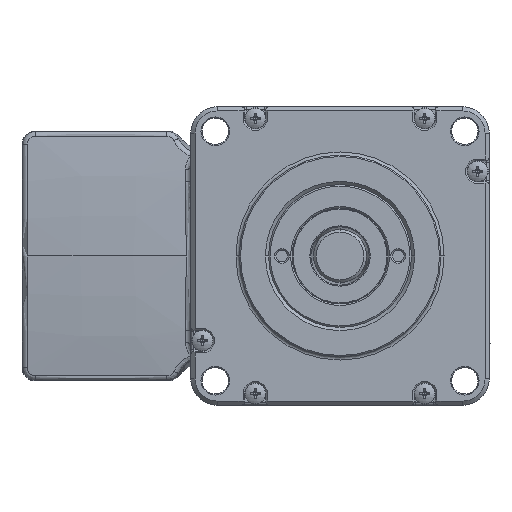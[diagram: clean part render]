
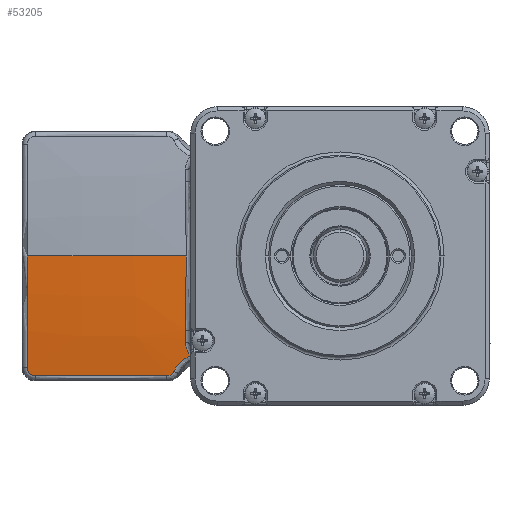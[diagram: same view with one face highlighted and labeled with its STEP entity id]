
A CAD part, left-side view. The second image highlights one B-rep face of the part: STEP entity #53205.
In plain terms, the highlighted free-form (B-spline) face has degree [3, 3] with [4, 4] control points.
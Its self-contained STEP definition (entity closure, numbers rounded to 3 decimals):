
#19495=CARTESIAN_POINT('',(-57.607,-22.648,
-45.879));
#19510=CARTESIAN_POINT('',(-32.757,-22.638,
-44.815));
#19521=CARTESIAN_POINT('',(-31.417,-21.806,
-44.708));
#19532=CARTESIAN_POINT('',(-28.259,-18.848,
-44.392));
#19564=CARTESIAN_POINT('',(-29.064,0.,
-43.501));
#19565=CARTESIAN_POINT('',(-29.064,-1.172,
-43.501));
#19566=CARTESIAN_POINT('',(-29.078,-3.517,
-43.522));
#19567=CARTESIAN_POINT('',(-29.124,-7.034,
-43.615));
#19568=CARTESIAN_POINT('',(-29.177,-10.55,
-43.77));
#19569=CARTESIAN_POINT('',(-29.198,-12.892,
-43.915));
#19570=CARTESIAN_POINT('',(-29.198,-14.063,
-43.998));
#19575=CARTESIAN_POINT('',(-29.198,-16.419,
-44.178));
#19576=CARTESIAN_POINT('',(-29.198,-16.652,
-44.197));
#19577=CARTESIAN_POINT('',(-29.164,-16.997,
-44.226));
#19578=CARTESIAN_POINT('',(-29.054,-17.448,
-44.265));
#19579=CARTESIAN_POINT('',(-28.939,-17.778,
-44.294));
#19580=CARTESIAN_POINT('',(-28.793,-18.093,
-44.323));
#19581=CARTESIAN_POINT('',(-28.58,-18.458,
-44.356));
#19582=CARTESIAN_POINT('',(-28.389,-18.705,
-44.379));
#19583=CARTESIAN_POINT('',(-28.259,-18.848,
-44.392));
#19588=CARTESIAN_POINT('',(-28.259,-18.848,
-44.392));
#19589=CARTESIAN_POINT('',(-28.606,-18.989,
-44.406));
#19590=CARTESIAN_POINT('',(-29.097,-19.246,
-44.431));
#19591=CARTESIAN_POINT('',(-29.695,-19.671,
-44.475));
#19592=CARTESIAN_POINT('',(-30.115,-20.032,
-44.513));
#19593=CARTESIAN_POINT('',(-30.503,-20.432,
-44.555));
#19594=CARTESIAN_POINT('',(-30.85,-20.86,
-44.602));
#19595=CARTESIAN_POINT('',(-31.156,-21.317,
-44.653));
#19596=CARTESIAN_POINT('',(-31.335,-21.64,
-44.689));
#19597=CARTESIAN_POINT('',(-31.417,-21.806,
-44.708));
#19602=CARTESIAN_POINT('',(-31.417,-21.806,
-44.708));
#19603=CARTESIAN_POINT('',(-31.479,-21.931,
-44.723));
#19604=CARTESIAN_POINT('',(-31.595,-22.101,
-44.742));
#19605=CARTESIAN_POINT('',(-31.797,-22.295,
-44.766));
#19606=CARTESIAN_POINT('',(-31.964,-22.416,
-44.781));
#19607=CARTESIAN_POINT('',(-32.148,-22.514,
-44.794));
#19608=CARTESIAN_POINT('',(-32.344,-22.585,
-44.804));
#19609=CARTESIAN_POINT('',(-32.547,-22.628,
-44.811));
#19610=CARTESIAN_POINT('',(-32.687,-22.638,
-44.814));
#19611=CARTESIAN_POINT('',(-32.757,-22.638,
-44.815));
#19616=CARTESIAN_POINT('',(-32.757,-22.638,
-44.815));
#19617=CARTESIAN_POINT('',(-41.051,-22.639,
-44.91));
#19618=CARTESIAN_POINT('',(-49.335,-22.642,
-45.265));
#19619=CARTESIAN_POINT('',(-57.607,-22.648,
-45.879));
#19624=CARTESIAN_POINT('',(-57.607,-22.648,
-45.879));
#19625=CARTESIAN_POINT('',(-57.707,-22.648,
-45.887));
#19626=CARTESIAN_POINT('',(-57.853,-22.633,
-45.896));
#19627=CARTESIAN_POINT('',(-58.044,-22.585,
-45.905));
#19628=CARTESIAN_POINT('',(-58.231,-22.518,
-45.911));
#19629=CARTESIAN_POINT('',(-58.447,-22.403,
-45.914));
#19630=CARTESIAN_POINT('',(-58.64,-22.244,
-45.911));
#19631=CARTESIAN_POINT('',(-58.772,-22.098,
-45.905));
#19632=CARTESIAN_POINT('',(-58.86,-21.979,
-45.898));
#19633=CARTESIAN_POINT('',(-58.936,-21.851,
-45.89));
#19634=CARTESIAN_POINT('',(-59.02,-21.673,
-45.877));
#19635=CARTESIAN_POINT('',(-59.091,-21.436,
-45.857));
#19636=CARTESIAN_POINT('',(-59.111,-21.238,
-45.837));
#19637=CARTESIAN_POINT('',(-59.111,-21.14,
-45.826));
#19642=CARTESIAN_POINT('',(-59.103,0.,-243.));
#19643=DIRECTION('',(-1.,0.,0.));
#19644=DIRECTION('',(0.,-0.107,0.994));
#19645=AXIS2_PLACEMENT_3D('',#19642,#19643,#19644);
#20373=CARTESIAN_POINT('',(-29.198,0.,-243.));
#20374=DIRECTION('',(-1.,0.,0.));
#20375=DIRECTION('',(0.,-0.082,0.997));
#20376=AXIS2_PLACEMENT_3D('',#20373,#20374,#20375);
#20589=CARTESIAN_POINT('',(-28.2,0.,-443.5));
#20590=DIRECTION('',(0.,-1.,0.));
#20591=DIRECTION('',(-0.002,0.,1.));
#20592=AXIS2_PLACEMENT_3D('',#20589,#20590,#20591);
#39752=CARTESIAN_POINT('',(-59.103,0.,
-44.696));
#39753=VERTEX_POINT('',#39752);
#39754=CARTESIAN_POINT('',(-59.103,-21.14,
-45.826));
#39755=VERTEX_POINT('',#39754);
#39759=VERTEX_POINT('',#19495);
#39761=VERTEX_POINT('',#19510);
#39763=VERTEX_POINT('',#19521);
#39766=VERTEX_POINT('',#19532);
#39768=CARTESIAN_POINT('',(-29.198,-16.419,
-44.178));
#39769=VERTEX_POINT('',#39768);
#39770=VERTEX_POINT('',#19564);
#39771=VERTEX_POINT('',#19570);
#53174=CARTESIAN_POINT('',(-27.641,-23.224,
-44.857));
#53175=CARTESIAN_POINT('',(-38.35,-23.226,
-44.842));
#53176=CARTESIAN_POINT('',(-49.051,-23.178,
-45.254));
#53177=CARTESIAN_POINT('',(-59.726,-23.08,
-46.092));
#53178=CARTESIAN_POINT('',(-27.641,-15.362,
-43.935));
#53179=CARTESIAN_POINT('',(-38.35,-15.364,
-43.92));
#53180=CARTESIAN_POINT('',(-49.051,-15.332,
-44.334));
#53181=CARTESIAN_POINT('',(-59.726,-15.267,
-45.177));
#53182=CARTESIAN_POINT('',(-27.641,-7.459,
-43.483));
#53183=CARTESIAN_POINT('',(-38.35,-7.46,
-43.468));
#53184=CARTESIAN_POINT('',(-49.051,-7.444,
-43.883));
#53185=CARTESIAN_POINT('',(-59.726,-7.413,
-44.727));
#53186=CARTESIAN_POINT('',(-27.641,0.456,
-43.501));
#53187=CARTESIAN_POINT('',(-38.35,0.456,
-43.486));
#53188=CARTESIAN_POINT('',(-49.051,0.456,
-43.901));
#53189=CARTESIAN_POINT('',(-59.726,0.454,
-44.745));
#53190=(BOUNDED_SURFACE()B_SPLINE_SURFACE(3,3,((#53174,#53175,#53176,#53177),(
#53178,#53179,#53180,#53181),(#53182,#53183,#53184,#53185),(#53186,#53187,
#53188,#53189)),.UNSPECIFIED.,.F.,.F.,.F.)B_SPLINE_SURFACE_WITH_KNOTS((4,4),(4,
4),(0.,1.),(0.,1.),.UNSPECIFIED.)GEOMETRIC_REPRESENTATION_ITEM()RATIONAL_B_SPLINE_SURFACE(((1.001,1.001,1.001,
1.001),(1.,1.,1.,
1.),(1.,1.,1.,
1.),(1.001,1.001,1.001,
1.001)))REPRESENTATION_ITEM('')SURFACE());
#53192=ORIENTED_EDGE('',*,*,#53191,.T.);
#53194=ORIENTED_EDGE('',*,*,#53193,.F.);
#53195=ORIENTED_EDGE('',*,*,#53152,.T.);
#53196=ORIENTED_EDGE('',*,*,#52866,.T.);
#53197=ORIENTED_EDGE('',*,*,#52774,.T.);
#53198=ORIENTED_EDGE('',*,*,#52641,.T.);
#53199=ORIENTED_EDGE('',*,*,#52602,.T.);
#53200=ORIENTED_EDGE('',*,*,#52453,.T.);
#53202=ORIENTED_EDGE('',*,*,#53201,.F.);
#53203=EDGE_LOOP('',(#53192,#53194,#53195,#53196,#53197,#53198,#53199,#53200,
#53202));
#53204=FACE_OUTER_BOUND('',#53203,.F.);
#19571=B_SPLINE_CURVE_WITH_KNOTS('',3,(#19564,#19565,#19566,#19567,#19568,
#19569,#19570),.UNSPECIFIED.,.F.,.F.,(4,1,1,1,4),(0.,0.25,
0.5,0.75,1.),.UNSPECIFIED.);
#19584=B_SPLINE_CURVE_WITH_KNOTS('',3,(#19575,#19576,#19577,#19578,#19579,
#19580,#19581,#19582,#19583),.UNSPECIFIED.,.F.,.F.,(4,1,1,1,1,1,4),(0.,
0.261,0.392,0.522,0.653,
0.783,1.),.UNSPECIFIED.);
#19598=B_SPLINE_CURVE_WITH_KNOTS('',3,(#19588,#19589,#19590,#19591,#19592,
#19593,#19594,#19595,#19596,#19597),.UNSPECIFIED.,.F.,.F.,(4,1,1,1,1,1,1,4),(
0.,0.25,0.375,0.5,0.625,
0.75,0.875,1.),.UNSPECIFIED.);
#19612=B_SPLINE_CURVE_WITH_KNOTS('',3,(#19602,#19603,#19604,#19605,#19606,
#19607,#19608,#19609,#19610,#19611),.UNSPECIFIED.,.F.,.F.,(4,1,1,1,1,1,1,4),(
0.,0.25,0.375,0.5,0.625,
0.75,0.875,1.),.UNSPECIFIED.);
#19620=B_SPLINE_CURVE_WITH_KNOTS('',3,(#19616,#19617,#19618,#19619),
.UNSPECIFIED.,.F.,.F.,(4,4),(0.,1.),.UNSPECIFIED.);
#19638=B_SPLINE_CURVE_WITH_KNOTS('',3,(#19624,#19625,#19626,#19627,#19628,
#19629,#19630,#19631,#19632,#19633,#19634,#19635,#19636,#19637),.UNSPECIFIED.,
.F.,.F.,(4,1,1,1,1,1,1,1,1,1,1,4),(0.,0.125,0.188,
0.25,0.375,0.5,0.563,
0.625,0.688,0.75,0.875,1.),
.UNSPECIFIED.);
#19646=CIRCLE('',#19645,198.304);
#20377=CIRCLE('',#20376,199.499);
#20593=CIRCLE('',#20592,400.);
#52453=EDGE_CURVE('',#39755,#39753,#19646,.T.);
#52602=EDGE_CURVE('',#39759,#39755,#19638,.T.);
#52641=EDGE_CURVE('',#39761,#39759,#19620,.T.);
#52774=EDGE_CURVE('',#39763,#39761,#19612,.T.);
#52866=EDGE_CURVE('',#39766,#39763,#19598,.T.);
#53152=EDGE_CURVE('',#39769,#39766,#19584,.T.);
#53191=EDGE_CURVE('',#39770,#39771,#19571,.T.);
#53193=EDGE_CURVE('',#39769,#39771,#20377,.T.);
#53201=EDGE_CURVE('',#39770,#39753,#20593,.T.);
#53205=ADVANCED_FACE('',(#53204),#53190,.T.);
